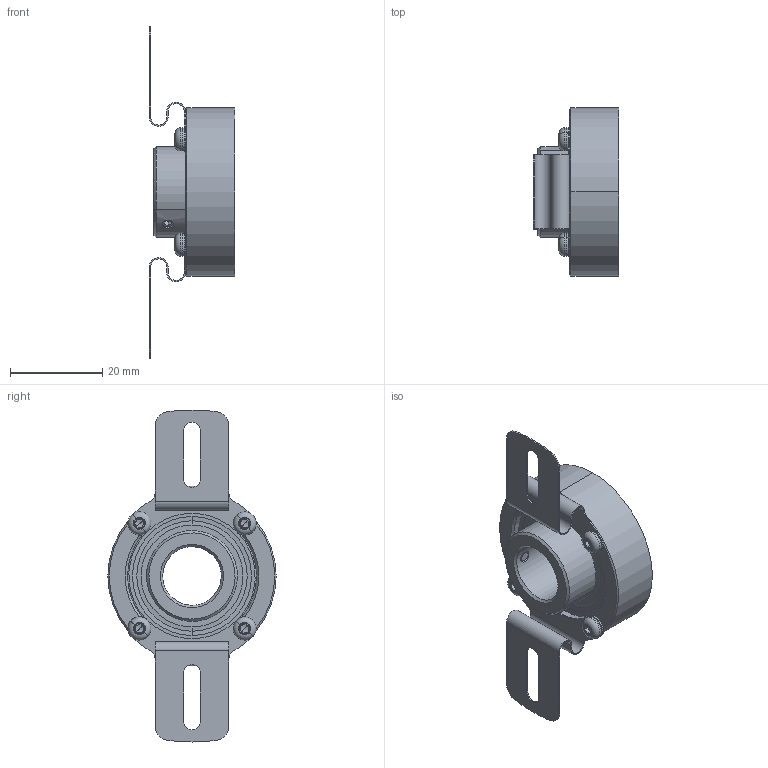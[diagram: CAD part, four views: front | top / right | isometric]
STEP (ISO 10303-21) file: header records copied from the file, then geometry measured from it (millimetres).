
FILE_DESCRIPTION (( 'STEP AP214' ), '1' );
FILE_NAME ('drawing-ucd-atb0-q3a-n.STEP', '2017-01-16T12:12:57', ( '' ), ( '' ), 'SwSTEP 2.0', 'SolidWorks 2015', '' );
FILE_SCHEMA (( 'AUTOMOTIVE_DESIGN' ));
Length unit declared in the file: millimetre
Products named in the file (1): drawing-ucd-atb0-q3a-n
Bounding box: 18.5 x 36.5 x 72 mm (x, y, z)
Volume: 9139.4 mm3; surface area: 13495.6 mm2
Topology: 27 solids, 27 shells, 507 faces, 1222 edges, 734 vertices
Faces by surface type: cylinder 162, cone 134, plane 111, bspline 60, torus 40
Entity records: 17034 total; most frequent: CARTESIAN_POINT 4970, DIRECTION 2604, ORIENTED_EDGE 2332, EDGE_CURVE 1166, AXIS2_PLACEMENT_3D 1120, VERTEX_POINT 734, CIRCLE 672, EDGE_LOOP 562
